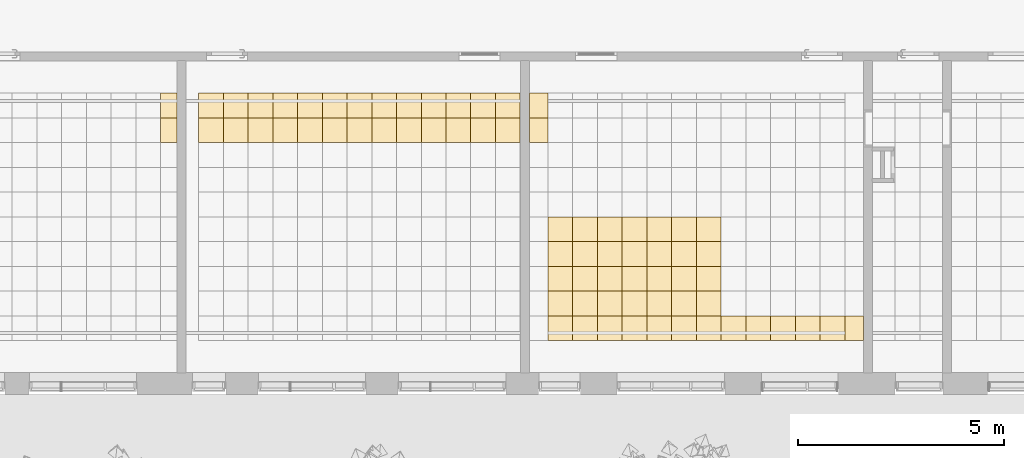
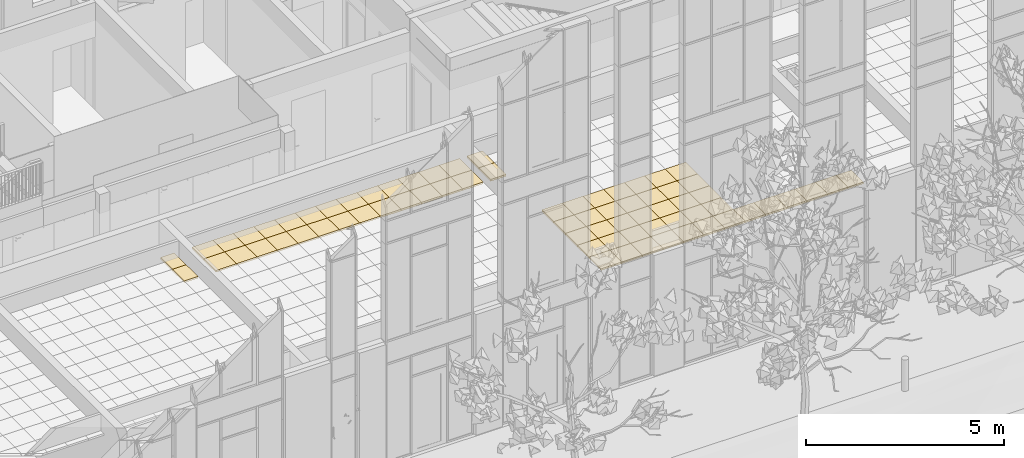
# One storey, part 194 of 246: 71 coverings.
"""IFC2X3 building model written with IfcOpenShell, lengths in millimetres."""

from ifc_helpers import new_model, entity, si_unit, converted_unit, derived_unit, money_unit, direction, frame, origin_with_axes, place, context, subcontext, project, spatial, faceted_brep, material, material_list, type_object, element, save


model = new_model("IFC2X3")

# Units and contexts
model_context = context("Model", 3, precision=0.01, world=origin_with_axes(), true_north=direction((0.0, 1.0)))
body_context = subcontext(model_context, "Body", "Model", "MODEL_VIEW")
ifc_project = project(units=[si_unit("LENGTHUNIT", "METRE", prefix="MILLI"), si_unit("AREAUNIT", "SQUARE_METRE"), si_unit("VOLUMEUNIT", "CUBIC_METRE"), converted_unit("PLANEANGLEUNIT", "DEGREE", entity("IfcPlaneAngleMeasure", 0.0174532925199), si_unit("PLANEANGLEUNIT", "RADIAN"), dimensions=[0, 0, 0, 0, 0, 0, 0]), si_unit("SOLIDANGLEUNIT", "STERADIAN"), money_unit("EUR"), converted_unit("TIMEUNIT", "Year", entity("IfcTimeMeasure", 31556926.0), si_unit("TIMEUNIT", "SECOND"), dimensions=[0, 0, 1, 0, 0, 0, 0]), si_unit("MASSUNIT", "GRAM", prefix="KILO"), si_unit("THERMODYNAMICTEMPERATUREUNIT", "DEGREE_CELSIUS"), si_unit("LUMINOUSINTENSITYUNIT", "LUMEN"), si_unit("ENERGYUNIT", "JOULE", prefix="MEGA"), derived_unit("THERMALCONDUCTANCEUNIT", [(si_unit("POWERUNIT", "WATT"), 1), (si_unit("LENGTHUNIT", "METRE"), -1), (si_unit("THERMODYNAMICTEMPERATUREUNIT", "KELVIN"), -1)]), derived_unit("SPECIFICHEATCAPACITYUNIT", [(si_unit("ENERGYUNIT", "JOULE"), 1), (si_unit("MASSUNIT", "GRAM", prefix="KILO"), -1), (si_unit("THERMODYNAMICTEMPERATUREUNIT", "KELVIN"), -1)]), derived_unit("MASSDENSITYUNIT", [(si_unit("MASSUNIT", "GRAM", prefix="KILO"), 1), (si_unit("VOLUMEUNIT", "CUBIC_METRE"), -1)])], contexts=[model_context])

# Site, building, storey
site_placement = place(None, origin_with_axes())
site = spatial("IfcSite", under=ifc_project, at=site_placement, Name="L.Koidula tn 11b", CompositionType="ELEMENT")
building_placement = place(site_placement, origin_with_axes())
building = spatial("IfcBuilding", under=site, at=building_placement, Name="Rakvere Riigigümnaasium", CompositionType="ELEMENT")
storey_placement = place(building_placement, origin_with_axes())
storey = spatial("IfcBuildingStorey", under=building, at=storey_placement, Name="1.korrus 0,00", CompositionType="ELEMENT", Elevation=0.0)

# Coverings
ifc_material_1 = material(Name="Karkass")
ifc_material_2 = material(Name="Kipsplaat")
ifc_material_list = material_list([ifc_material_1, ifc_material_2])
covering_type = type_object("IfcCoveringType", Name="SA-LV-Kips-moodul 55", PredefinedType="CEILING")
for number, where, z_axis, x_axis, name in (
    (1, (65929.7187104, 11090.4535941, 2750.0), (0.0, 0.0, 1.0), (1.0, 0.0, 0.0), "L-03"),
    (2, (65929.7187104, 11690.4535941, 2750.0), (0.0, 0.0, 1.0), (1.0, 0.0, 0.0), "L-03"),
):
    element("IfcCovering", number, at=place(storey_placement, frame(where, z_axis=z_axis, x_axis=x_axis)), inside=storey, type_object=covering_type, material=ifc_material_list, Name=name, PredefinedType="CEILING", context=body_context, shape_type="Brep", body=[
        faceted_brep([(399.999039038, 0.0, 12.5), (399.999039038, 0.0, 54.5), (0.0, 0.0, 54.5), (0.0, 0.0, 12.5), (399.999039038, 600.0, 12.5), (399.999039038, 600.0, 54.5), (0.0, 600.0, 54.5), (0.0, 600.0, 12.5)], [[[0, 1, 2, 3]], [[4, 5, 1, 0]], [[2, 1, 5, 6]], [[3, 2, 6, 7]], [[3, 7, 4, 0]], [[7, 6, 5, 4]]]),
        faceted_brep([(0.0, 0.0, 0.0), (399.999039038, 0.0, 0.0), (399.999039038, 0.0, 12.5), (0.0, 0.0, 12.5), (0.0, 600.0, 0.0), (399.999039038, 600.0, 0.0), (399.999039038, 600.0, 12.5), (0.0, 600.0, 12.5)], [[[0, 1, 2, 3]], [[0, 4, 5, 1]], [[1, 5, 6, 2]], [[3, 2, 6, 7]], [[4, 0, 3, 7]], [[5, 4, 7, 6]]]),
    ])
for number, where, z_axis, x_axis, name in (
    (3, (75319.7152091, 8690.45359412, 2750.0), (0.0, 0.0, 1.0), (1.0, 0.0, 0.0), "L-03"),
    (4, (75319.7152091, 8090.45359412, 2750.0), (0.0, 0.0, 1.0), (1.0, 0.0, 0.0), "L-03"),
    (5, (75319.7152091, 7490.45359412, 2750.0), (0.0, 0.0, 1.0), (1.0, 0.0, 0.0), "L-03"),
    (6, (75319.7152091, 6290.45359412, 2750.0), (0.0, 0.0, 1.0), (1.0, 0.0, 0.0), "L-03"),
    (7, (75319.7152091, 6890.45359412, 2750.0), (0.0, 0.0, 1.0), (1.0, 0.0, 0.0), "L-03"),
):
    element("IfcCovering", number, at=place(storey_placement, frame(where, z_axis=z_axis, x_axis=x_axis)), inside=storey, type_object=covering_type, material=ifc_material_list, Name=name, PredefinedType="CEILING", context=body_context, shape_type="Brep", body=[
        faceted_brep([(599.999948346, 0.0, 12.5), (599.999948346, 0.0, 54.5), (0.0, 0.0, 54.5), (0.0, 0.0, 12.5), (599.999948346, 600.0, 12.5), (599.999948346, 600.0, 54.5), (0.0, 600.0, 54.5), (0.0, 600.0, 12.5)], [[[0, 1, 2, 3]], [[4, 5, 1, 0]], [[2, 1, 5, 6]], [[3, 2, 6, 7]], [[3, 7, 4, 0]], [[7, 6, 5, 4]]]),
        faceted_brep([(0.0, 0.0, 0.0), (599.999948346, 0.0, 0.0), (599.999948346, 0.0, 12.5), (0.0, 0.0, 12.5), (0.0, 600.0, 0.0), (599.999948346, 600.0, 0.0), (599.999948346, 600.0, 12.5), (0.0, 600.0, 12.5)], [[[0, 1, 2, 3]], [[0, 4, 5, 1]], [[1, 5, 6, 2]], [[3, 2, 6, 7]], [[4, 0, 3, 7]], [[5, 4, 7, 6]]]),
    ])
for number, where, z_axis, x_axis, name in (
    (8, (74870.0163848, 11090.4535941, 2750.0), (0.0, 0.0, 1.0), (1.0, 0.0, 0.0), "L-03"),
    (9, (74870.0163848, 11690.4535941, 2750.0), (0.0, 0.0, 1.0), (1.0, 0.0, 0.0), "L-03"),
):
    element("IfcCovering", number, at=place(storey_placement, frame(where, z_axis=z_axis, x_axis=x_axis)), inside=storey, type_object=covering_type, material=ifc_material_list, Name=name, PredefinedType="CEILING", context=body_context, shape_type="Brep", body=[
        faceted_brep([(449.698824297, 0.0, 12.5), (449.698824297, 0.0, 54.5), (0.0, 0.0, 54.5), (0.0, 0.0, 12.5), (449.698824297, 600.0, 12.5), (449.698824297, 600.0, 54.5), (0.0, 600.0, 54.5), (0.0, 600.0, 12.5)], [[[0, 1, 2, 3]], [[4, 5, 1, 0]], [[2, 1, 5, 6]], [[3, 2, 6, 7]], [[3, 7, 4, 0]], [[7, 6, 5, 4]]]),
        faceted_brep([(0.0, 0.0, 0.0), (449.698824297, 0.0, 0.0), (449.698824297, 0.0, 12.5), (0.0, 0.0, 12.5), (0.0, 600.0, 0.0), (449.698824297, 600.0, 0.0), (449.698824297, 600.0, 12.5), (0.0, 600.0, 12.5)], [[[0, 1, 2, 3]], [[0, 4, 5, 1]], [[1, 5, 6, 2]], [[3, 2, 6, 7]], [[4, 0, 3, 7]], [[5, 4, 7, 6]]]),
    ])
for number, where, z_axis, x_axis, name in (
    (10, (76519.7151574, 8690.45359412, 2750.0), (0.0, 0.0, 1.0), (1.0, 0.0, 0.0), "L-03"),
    (11, (76519.7151574, 8090.45359412, 2750.0), (0.0, 0.0, 1.0), (1.0, 0.0, 0.0), "L-03"),
    (12, (76519.7151574, 7490.45359412, 2750.0), (0.0, 0.0, 1.0), (1.0, 0.0, 0.0), "L-03"),
    (13, (76519.7151574, 6290.45359412, 2750.0), (0.0, 0.0, 1.0), (1.0, 0.0, 0.0), "L-03"),
    (14, (76519.7151574, 6890.45359412, 2750.0), (0.0, 0.0, 1.0), (1.0, 0.0, 0.0), "L-03"),
):
    element("IfcCovering", number, at=place(storey_placement, frame(where, z_axis=z_axis, x_axis=x_axis)), inside=storey, type_object=covering_type, material=ifc_material_list, Name=name, PredefinedType="CEILING", context=body_context, shape_type="Brep", body=[
        faceted_brep([(599.999948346, 0.0, 12.5), (599.999948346, 0.0, 54.5), (0.0, 0.0, 54.5), (0.0, 0.0, 12.5), (599.999948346, 600.0, 12.5), (599.999948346, 600.0, 54.5), (0.0, 600.0, 54.5), (0.0, 600.0, 12.5)], [[[0, 1, 2, 3]], [[4, 5, 1, 0]], [[2, 1, 5, 6]], [[3, 2, 6, 7]], [[3, 7, 4, 0]], [[7, 6, 5, 4]]]),
        faceted_brep([(0.0, 0.0, 0.0), (599.999948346, 0.0, 0.0), (599.999948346, 0.0, 12.5), (0.0, 0.0, 12.5), (0.0, 600.0, 0.0), (599.999948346, 600.0, 0.0), (599.999948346, 600.0, 12.5), (0.0, 600.0, 12.5)], [[[0, 1, 2, 3]], [[0, 4, 5, 1]], [[1, 5, 6, 2]], [[3, 2, 6, 7]], [[4, 0, 3, 7]], [[5, 4, 7, 6]]]),
    ])
for number, where, z_axis, x_axis, name in (
    (15, (75919.7151574, 7490.45359412, 2750.0), (0.0, 0.0, 1.0), (1.0, 0.0, 0.0), "L-03"),
    (16, (75919.7151574, 8090.45359412, 2750.0), (0.0, 0.0, 1.0), (1.0, 0.0, 0.0), "L-03"),
    (17, (75919.7151574, 8690.45359412, 2750.0), (0.0, 0.0, 1.0), (1.0, 0.0, 0.0), "L-03"),
    (18, (75919.7151574, 6290.45359412, 2750.0), (0.0, 0.0, 1.0), (1.0, 0.0, 0.0), "L-03"),
    (19, (75919.7151574, 6890.45359412, 2750.0), (0.0, 0.0, 1.0), (1.0, 0.0, 0.0), "L-03"),
):
    element("IfcCovering", number, at=place(storey_placement, frame(where, z_axis=z_axis, x_axis=x_axis)), inside=storey, type_object=covering_type, material=ifc_material_list, Name=name, PredefinedType="CEILING", context=body_context, shape_type="Brep", body=[
        faceted_brep([(600.0, 0.0, 12.5), (600.0, 0.0, 54.5), (0.0, 0.0, 54.5), (0.0, 0.0, 12.5), (600.0, 600.0, 12.5), (600.0, 600.0, 54.5), (0.0, 600.0, 54.5), (0.0, 600.0, 12.5)], [[[0, 1, 2, 3]], [[4, 5, 1, 0]], [[2, 1, 5, 6]], [[3, 2, 6, 7]], [[3, 7, 4, 0]], [[7, 6, 5, 4]]]),
        faceted_brep([(0.0, 0.0, 0.0), (600.0, 0.0, 0.0), (600.0, 0.0, 12.5), (0.0, 0.0, 12.5), (0.0, 600.0, 0.0), (600.0, 600.0, 0.0), (600.0, 600.0, 12.5), (0.0, 600.0, 12.5)], [[[0, 1, 2, 3]], [[0, 4, 5, 1]], [[1, 5, 6, 2]], [[3, 2, 6, 7]], [[4, 0, 3, 7]], [[5, 4, 7, 6]]]),
    ])
for number, where, z_axis, x_axis, name in (
    (20, (77719.7151058, 8690.45359412, 2750.0), (0.0, 0.0, 1.0), (1.0, 0.0, 0.0), "L-03"),
    (21, (77719.7151058, 8090.45359412, 2750.0), (0.0, 0.0, 1.0), (1.0, 0.0, 0.0), "L-03"),
    (22, (77719.7151058, 7490.45359412, 2750.0), (0.0, 0.0, 1.0), (1.0, 0.0, 0.0), "L-03"),
    (23, (77719.7151058, 6290.45359412, 2750.0), (0.0, 0.0, 1.0), (1.0, 0.0, 0.0), "L-03"),
    (24, (77719.7151058, 6890.45359412, 2750.0), (0.0, 0.0, 1.0), (1.0, 0.0, 0.0), "L-03"),
):
    element("IfcCovering", number, at=place(storey_placement, frame(where, z_axis=z_axis, x_axis=x_axis)), inside=storey, type_object=covering_type, material=ifc_material_list, Name=name, PredefinedType="CEILING", context=body_context, shape_type="Brep", body=[
        faceted_brep([(599.999948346, 0.0, 12.5), (599.999948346, 0.0, 54.5), (0.0, 0.0, 54.5), (0.0, 0.0, 12.5), (599.999948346, 600.0, 12.5), (599.999948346, 600.0, 54.5), (0.0, 600.0, 54.5), (0.0, 600.0, 12.5)], [[[0, 1, 2, 3]], [[4, 5, 1, 0]], [[2, 1, 5, 6]], [[3, 2, 6, 7]], [[3, 7, 4, 0]], [[7, 6, 5, 4]]]),
        faceted_brep([(0.0, 0.0, 0.0), (599.999948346, 0.0, 0.0), (599.999948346, 0.0, 12.5), (0.0, 0.0, 12.5), (0.0, 600.0, 0.0), (599.999948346, 600.0, 0.0), (599.999948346, 600.0, 12.5), (0.0, 600.0, 12.5)], [[[0, 1, 2, 3]], [[0, 4, 5, 1]], [[1, 5, 6, 2]], [[3, 2, 6, 7]], [[4, 0, 3, 7]], [[5, 4, 7, 6]]]),
    ])
for number, where, z_axis, x_axis, name in (
    (25, (77119.7151058, 7490.45359412, 2750.0), (0.0, 0.0, 1.0), (1.0, 0.0, 0.0), "L-03"),
    (26, (77119.7151058, 8090.45359412, 2750.0), (0.0, 0.0, 1.0), (1.0, 0.0, 0.0), "L-03"),
    (27, (77119.7151058, 8690.45359412, 2750.0), (0.0, 0.0, 1.0), (1.0, 0.0, 0.0), "L-03"),
    (28, (77119.7151058, 6290.45359412, 2750.0), (0.0, 0.0, 1.0), (1.0, 0.0, 0.0), "L-03"),
    (29, (77119.7151058, 6890.45359412, 2750.0), (0.0, 0.0, 1.0), (1.0, 0.0, 0.0), "L-03"),
):
    element("IfcCovering", number, at=place(storey_placement, frame(where, z_axis=z_axis, x_axis=x_axis)), inside=storey, type_object=covering_type, material=ifc_material_list, Name=name, PredefinedType="CEILING", context=body_context, shape_type="Brep", body=[
        faceted_brep([(600.0, 0.0, 12.5), (600.0, 0.0, 54.5), (0.0, 0.0, 54.5), (0.0, 0.0, 12.5), (600.0, 600.0, 12.5), (600.0, 600.0, 54.5), (0.0, 600.0, 54.5), (0.0, 600.0, 12.5)], [[[0, 1, 2, 3]], [[4, 5, 1, 0]], [[2, 1, 5, 6]], [[3, 2, 6, 7]], [[3, 7, 4, 0]], [[7, 6, 5, 4]]]),
        faceted_brep([(0.0, 0.0, 0.0), (600.0, 0.0, 0.0), (600.0, 0.0, 12.5), (0.0, 0.0, 12.5), (0.0, 600.0, 0.0), (600.0, 600.0, 0.0), (600.0, 600.0, 12.5), (0.0, 600.0, 12.5)], [[[0, 1, 2, 3]], [[0, 4, 5, 1]], [[1, 5, 6, 2]], [[3, 2, 6, 7]], [[4, 0, 3, 7]], [[5, 4, 7, 6]]]),
    ])
for number, where, z_axis, x_axis, name in (
    (30, (78919.7150541, 8690.45359412, 2750.0), (0.0, 0.0, 1.0), (1.0, 0.0, 0.0), "L-03"),
    (31, (78919.7150541, 8090.45359412, 2750.0), (0.0, 0.0, 1.0), (1.0, 0.0, 0.0), "L-03"),
    (32, (78919.7150541, 7490.45359412, 2750.0), (0.0, 0.0, 1.0), (1.0, 0.0, 0.0), "L-03"),
    (33, (78919.7150541, 6290.45359412, 2750.0), (0.0, 0.0, 1.0), (1.0, 0.0, 0.0), "L-03"),
    (34, (78919.7150541, 6890.45359412, 2750.0), (0.0, 0.0, 1.0), (1.0, 0.0, 0.0), "L-03"),
):
    element("IfcCovering", number, at=place(storey_placement, frame(where, z_axis=z_axis, x_axis=x_axis)), inside=storey, type_object=covering_type, material=ifc_material_list, Name=name, PredefinedType="CEILING", context=body_context, shape_type="Brep", body=[
        faceted_brep([(599.999948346, 0.0, 12.5), (599.999948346, 0.0, 54.5), (0.0, 0.0, 54.5), (0.0, 0.0, 12.5), (599.999948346, 600.0, 12.5), (599.999948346, 600.0, 54.5), (0.0, 600.0, 54.5), (0.0, 600.0, 12.5)], [[[0, 1, 2, 3]], [[4, 5, 1, 0]], [[2, 1, 5, 6]], [[3, 2, 6, 7]], [[3, 7, 4, 0]], [[7, 6, 5, 4]]]),
        faceted_brep([(0.0, 0.0, 0.0), (599.999948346, 0.0, 0.0), (599.999948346, 0.0, 12.5), (0.0, 0.0, 12.5), (0.0, 600.0, 0.0), (599.999948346, 600.0, 0.0), (599.999948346, 600.0, 12.5), (0.0, 600.0, 12.5)], [[[0, 1, 2, 3]], [[0, 4, 5, 1]], [[1, 5, 6, 2]], [[3, 2, 6, 7]], [[4, 0, 3, 7]], [[5, 4, 7, 6]]]),
    ])
for number, where, z_axis, x_axis, name in (
    (35, (78319.7150541, 7490.45359412, 2750.0), (0.0, 0.0, 1.0), (1.0, 0.0, 0.0), "L-03"),
    (36, (78319.7150541, 8090.45359412, 2750.0), (0.0, 0.0, 1.0), (1.0, 0.0, 0.0), "L-03"),
    (37, (78319.7150541, 8690.45359412, 2750.0), (0.0, 0.0, 1.0), (1.0, 0.0, 0.0), "L-03"),
    (38, (78319.7150541, 6290.45359412, 2750.0), (0.0, 0.0, 1.0), (1.0, 0.0, 0.0), "L-03"),
    (39, (78319.7150541, 6890.45359412, 2750.0), (0.0, 0.0, 1.0), (1.0, 0.0, 0.0), "L-03"),
):
    element("IfcCovering", number, at=place(storey_placement, frame(where, z_axis=z_axis, x_axis=x_axis)), inside=storey, type_object=covering_type, material=ifc_material_list, Name=name, PredefinedType="CEILING", context=body_context, shape_type="Brep", body=[
        faceted_brep([(600.0, 0.0, 12.5), (600.0, 0.0, 54.5), (0.0, 0.0, 54.5), (0.0, 0.0, 12.5), (600.0, 600.0, 12.5), (600.0, 600.0, 54.5), (0.0, 600.0, 54.5), (0.0, 600.0, 12.5)], [[[0, 1, 2, 3]], [[4, 5, 1, 0]], [[2, 1, 5, 6]], [[3, 2, 6, 7]], [[3, 7, 4, 0]], [[7, 6, 5, 4]]]),
        faceted_brep([(0.0, 0.0, 0.0), (600.0, 0.0, 0.0), (600.0, 0.0, 12.5), (0.0, 0.0, 12.5), (0.0, 600.0, 0.0), (600.0, 600.0, 0.0), (600.0, 600.0, 12.5), (0.0, 600.0, 12.5)], [[[0, 1, 2, 3]], [[0, 4, 5, 1]], [[1, 5, 6, 2]], [[3, 2, 6, 7]], [[4, 0, 3, 7]], [[5, 4, 7, 6]]]),
    ])
covering_1_placement = place(storey_placement, frame((80119.7150025, 6290.45359412, 2750.0), z_axis=(0.0, 0.0, 1.0), x_axis=(1.0, 0.0, 0.0)))
element("IfcCovering", 40, at=covering_1_placement, inside=storey, type_object=covering_type, material=ifc_material_list, Name="L-03", PredefinedType="CEILING", context=body_context, shape_type="Brep", body=[
    faceted_brep([(599.999948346, 0.0, 12.5), (599.999948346, 0.0, 54.5), (0.0, 0.0, 54.5), (0.0, 0.0, 12.5), (599.999948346, 600.0, 12.5), (599.999948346, 600.0, 54.5), (0.0, 600.0, 54.5), (0.0, 600.0, 12.5)], [[[0, 1, 2, 3]], [[4, 5, 1, 0]], [[2, 1, 5, 6]], [[3, 2, 6, 7]], [[3, 7, 4, 0]], [[7, 6, 5, 4]]]),
    faceted_brep([(0.0, 0.0, 0.0), (599.999948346, 0.0, 0.0), (599.999948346, 0.0, 12.5), (0.0, 0.0, 12.5), (0.0, 600.0, 0.0), (599.999948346, 600.0, 0.0), (599.999948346, 600.0, 12.5), (0.0, 600.0, 12.5)], [[[0, 1, 2, 3]], [[0, 4, 5, 1]], [[1, 5, 6, 2]], [[3, 2, 6, 7]], [[4, 0, 3, 7]], [[5, 4, 7, 6]]]),
])
covering_2_placement = place(storey_placement, frame((79519.7150025, 6290.45359412, 2750.0), z_axis=(0.0, 0.0, 1.0), x_axis=(1.0, 0.0, 0.0)))
element("IfcCovering", 41, at=covering_2_placement, inside=storey, type_object=covering_type, material=ifc_material_list, Name="L-03", PredefinedType="CEILING", context=body_context, shape_type="Brep", body=[
    faceted_brep([(600.0, 0.0, 12.5), (600.0, 0.0, 54.5), (0.0, 0.0, 54.5), (0.0, 0.0, 12.5), (600.0, 600.0, 12.5), (600.0, 600.0, 54.5), (0.0, 600.0, 54.5), (0.0, 600.0, 12.5)], [[[0, 1, 2, 3]], [[4, 5, 1, 0]], [[2, 1, 5, 6]], [[3, 2, 6, 7]], [[3, 7, 4, 0]], [[7, 6, 5, 4]]]),
    faceted_brep([(0.0, 0.0, 0.0), (600.0, 0.0, 0.0), (600.0, 0.0, 12.5), (0.0, 0.0, 12.5), (0.0, 600.0, 0.0), (600.0, 600.0, 0.0), (600.0, 600.0, 12.5), (0.0, 600.0, 12.5)], [[[0, 1, 2, 3]], [[0, 4, 5, 1]], [[1, 5, 6, 2]], [[3, 2, 6, 7]], [[4, 0, 3, 7]], [[5, 4, 7, 6]]]),
])
covering_3_placement = place(storey_placement, frame((81319.7149508, 6290.45359412, 2750.0), z_axis=(0.0, 0.0, 1.0), x_axis=(1.0, 0.0, 0.0)))
element("IfcCovering", 42, at=covering_3_placement, inside=storey, type_object=covering_type, material=ifc_material_list, Name="L-03", PredefinedType="CEILING", context=body_context, shape_type="Brep", body=[
    faceted_brep([(599.999948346, 0.0, 12.5), (599.999948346, 0.0, 54.5), (0.0, 0.0, 54.5), (0.0, 0.0, 12.5), (599.999948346, 600.0, 12.5), (599.999948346, 600.0, 54.5), (0.0, 600.0, 54.5), (0.0, 600.0, 12.5)], [[[0, 1, 2, 3]], [[4, 5, 1, 0]], [[2, 1, 5, 6]], [[3, 2, 6, 7]], [[3, 7, 4, 0]], [[7, 6, 5, 4]]]),
    faceted_brep([(0.0, 0.0, 0.0), (599.999948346, 0.0, 0.0), (599.999948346, 0.0, 12.5), (0.0, 0.0, 12.5), (0.0, 600.0, 0.0), (599.999948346, 600.0, 0.0), (599.999948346, 600.0, 12.5), (0.0, 600.0, 12.5)], [[[0, 1, 2, 3]], [[0, 4, 5, 1]], [[1, 5, 6, 2]], [[3, 2, 6, 7]], [[4, 0, 3, 7]], [[5, 4, 7, 6]]]),
])
covering_4_placement = place(storey_placement, frame((80719.7149508, 6290.45359412, 2750.0), z_axis=(0.0, 0.0, 1.0), x_axis=(1.0, 0.0, 0.0)))
element("IfcCovering", 43, at=covering_4_placement, inside=storey, type_object=covering_type, material=ifc_material_list, Name="L-03", PredefinedType="CEILING", context=body_context, shape_type="Brep", body=[
    faceted_brep([(600.0, 0.0, 12.5), (600.0, 0.0, 54.5), (0.0, 0.0, 54.5), (0.0, 0.0, 12.5), (600.0, 600.0, 12.5), (600.0, 600.0, 54.5), (0.0, 600.0, 54.5), (0.0, 600.0, 12.5)], [[[0, 1, 2, 3]], [[4, 5, 1, 0]], [[2, 1, 5, 6]], [[3, 2, 6, 7]], [[3, 7, 4, 0]], [[7, 6, 5, 4]]]),
    faceted_brep([(0.0, 0.0, 0.0), (600.0, 0.0, 0.0), (600.0, 0.0, 12.5), (0.0, 0.0, 12.5), (0.0, 600.0, 0.0), (600.0, 600.0, 0.0), (600.0, 600.0, 12.5), (0.0, 600.0, 12.5)], [[[0, 1, 2, 3]], [[0, 4, 5, 1]], [[1, 5, 6, 2]], [[3, 2, 6, 7]], [[4, 0, 3, 7]], [[5, 4, 7, 6]]]),
])
covering_5_placement = place(storey_placement, frame((82519.7148992, 6290.45359412, 2750.0), z_axis=(0.0, 0.0, 1.0), x_axis=(1.0, 0.0, 0.0)))
element("IfcCovering", 44, at=covering_5_placement, inside=storey, type_object=covering_type, material=ifc_material_list, Name="L-03", PredefinedType="CEILING", context=body_context, shape_type="Brep", body=[
    faceted_brep([(450.341138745, 0.0, 12.5), (450.341138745, 0.0, 54.5), (0.0, 0.0, 54.5), (0.0, 0.0, 12.5), (450.341138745, 600.0, 12.5), (450.341138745, 600.0, 54.5), (0.0, 600.0, 54.5), (0.0, 600.0, 12.5)], [[[0, 1, 2, 3]], [[4, 5, 1, 0]], [[2, 1, 5, 6]], [[3, 2, 6, 7]], [[3, 7, 4, 0]], [[7, 6, 5, 4]]]),
    faceted_brep([(0.0, 0.0, 0.0), (450.341138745, 0.0, 0.0), (450.341138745, 0.0, 12.5), (0.0, 0.0, 12.5), (0.0, 600.0, 0.0), (450.341138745, 600.0, 0.0), (450.341138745, 600.0, 12.5), (0.0, 600.0, 12.5)], [[[0, 1, 2, 3]], [[0, 4, 5, 1]], [[1, 5, 6, 2]], [[3, 2, 6, 7]], [[4, 0, 3, 7]], [[5, 4, 7, 6]]]),
])
covering_6_placement = place(storey_placement, frame((81919.7148992, 6290.45359412, 2750.0), z_axis=(0.0, 0.0, 1.0), x_axis=(1.0, 0.0, 0.0)))
element("IfcCovering", 45, at=covering_6_placement, inside=storey, type_object=covering_type, material=ifc_material_list, Name="L-03", PredefinedType="CEILING", context=body_context, shape_type="Brep", body=[
    faceted_brep([(600.0, 0.0, 12.5), (600.0, 0.0, 54.5), (0.0, 0.0, 54.5), (0.0, 0.0, 12.5), (600.0, 600.0, 12.5), (600.0, 600.0, 54.5), (0.0, 600.0, 54.5), (0.0, 600.0, 12.5)], [[[0, 1, 2, 3]], [[4, 5, 1, 0]], [[2, 1, 5, 6]], [[3, 2, 6, 7]], [[3, 7, 4, 0]], [[7, 6, 5, 4]]]),
    faceted_brep([(0.0, 0.0, 0.0), (600.0, 0.0, 0.0), (600.0, 0.0, 12.5), (0.0, 0.0, 12.5), (0.0, 600.0, 0.0), (600.0, 600.0, 0.0), (600.0, 600.0, 12.5), (0.0, 600.0, 12.5)], [[[0, 1, 2, 3]], [[0, 4, 5, 1]], [[1, 5, 6, 2]], [[3, 2, 6, 7]], [[4, 0, 3, 7]], [[5, 4, 7, 6]]]),
])
for number, where, z_axis, x_axis, name in (
    (46, (67449.7153767, 11090.4535941, 2750.0), (0.0, 0.0, 1.0), (1.0, 0.0, 0.0), "L-03"),
    (47, (67449.7153767, 11690.4535941, 2750.0), (0.0, 0.0, 1.0), (1.0, 0.0, 0.0), "L-03"),
):
    element("IfcCovering", number, at=place(storey_placement, frame(where, z_axis=z_axis, x_axis=x_axis)), inside=storey, type_object=covering_type, material=ifc_material_list, Name=name, PredefinedType="CEILING", context=body_context, shape_type="Brep", body=[
        faceted_brep([(599.999948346, 0.0, 12.5), (599.999948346, 0.0, 54.5), (0.0, 0.0, 54.5), (0.0, 0.0, 12.5), (599.999948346, 600.0, 12.5), (599.999948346, 600.0, 54.5), (0.0, 600.0, 54.5), (0.0, 600.0, 12.5)], [[[0, 1, 2, 3]], [[4, 5, 1, 0]], [[2, 1, 5, 6]], [[3, 2, 6, 7]], [[3, 7, 4, 0]], [[7, 6, 5, 4]]]),
        faceted_brep([(0.0, 0.0, 0.0), (599.999948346, 0.0, 0.0), (599.999948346, 0.0, 12.5), (0.0, 0.0, 12.5), (0.0, 600.0, 0.0), (599.999948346, 600.0, 0.0), (599.999948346, 600.0, 12.5), (0.0, 600.0, 12.5)], [[[0, 1, 2, 3]], [[0, 4, 5, 1]], [[1, 5, 6, 2]], [[3, 2, 6, 7]], [[4, 0, 3, 7]], [[5, 4, 7, 6]]]),
    ])
for number, where, z_axis, x_axis, name in (
    (48, (66849.7149246, 11090.4535941, 2750.0), (0.0, 0.0, 1.0), (1.0, 0.0, 0.0), "L-03"),
    (49, (66849.7149246, 11690.4535941, 2750.0), (0.0, 0.0, 1.0), (1.0, 0.0, 0.0), "L-03"),
):
    element("IfcCovering", number, at=place(storey_placement, frame(where, z_axis=z_axis, x_axis=x_axis)), inside=storey, type_object=covering_type, material=ifc_material_list, Name=name, PredefinedType="CEILING", context=body_context, shape_type="Brep", body=[
        faceted_brep([(600.000452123, 0.0, 12.5), (600.000452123, 0.0, 54.5), (0.0, 0.0, 54.5), (0.0, 0.0, 12.5), (600.000452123, 600.0, 12.5), (600.000452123, 600.0, 54.5), (0.0, 600.0, 54.5), (0.0, 600.0, 12.5)], [[[0, 1, 2, 3]], [[4, 5, 1, 0]], [[2, 1, 5, 6]], [[3, 2, 6, 7]], [[3, 7, 4, 0]], [[7, 6, 5, 4]]]),
        faceted_brep([(0.0, 0.0, 0.0), (600.000452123, 0.0, 0.0), (600.000452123, 0.0, 12.5), (0.0, 0.0, 12.5), (0.0, 600.0, 0.0), (600.000452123, 600.0, 0.0), (600.000452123, 600.0, 12.5), (0.0, 600.0, 12.5)], [[[0, 1, 2, 3]], [[0, 4, 5, 1]], [[1, 5, 6, 2]], [[3, 2, 6, 7]], [[4, 0, 3, 7]], [[5, 4, 7, 6]]]),
    ])
for number, where, z_axis, x_axis, name in (
    (50, (68649.715325, 11090.4535941, 2750.0), (0.0, 0.0, 1.0), (1.0, 0.0, 0.0), "L-03"),
    (51, (68649.715325, 11690.4535941, 2750.0), (0.0, 0.0, 1.0), (1.0, 0.0, 0.0), "L-03"),
):
    element("IfcCovering", number, at=place(storey_placement, frame(where, z_axis=z_axis, x_axis=x_axis)), inside=storey, type_object=covering_type, material=ifc_material_list, Name=name, PredefinedType="CEILING", context=body_context, shape_type="Brep", body=[
        faceted_brep([(599.999948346, 0.0, 12.5), (599.999948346, 0.0, 54.5), (0.0, 0.0, 54.5), (0.0, 0.0, 12.5), (599.999948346, 600.0, 12.5), (599.999948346, 600.0, 54.5), (0.0, 600.0, 54.5), (0.0, 600.0, 12.5)], [[[0, 1, 2, 3]], [[4, 5, 1, 0]], [[2, 1, 5, 6]], [[3, 2, 6, 7]], [[3, 7, 4, 0]], [[7, 6, 5, 4]]]),
        faceted_brep([(0.0, 0.0, 0.0), (599.999948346, 0.0, 0.0), (599.999948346, 0.0, 12.5), (0.0, 0.0, 12.5), (0.0, 600.0, 0.0), (599.999948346, 600.0, 0.0), (599.999948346, 600.0, 12.5), (0.0, 600.0, 12.5)], [[[0, 1, 2, 3]], [[0, 4, 5, 1]], [[1, 5, 6, 2]], [[3, 2, 6, 7]], [[4, 0, 3, 7]], [[5, 4, 7, 6]]]),
    ])
for number, where, z_axis, x_axis, name in (
    (52, (68049.715325, 11090.4535941, 2750.0), (0.0, 0.0, 1.0), (1.0, 0.0, 0.0), "L-03"),
    (53, (68049.715325, 11690.4535941, 2750.0), (0.0, 0.0, 1.0), (1.0, 0.0, 0.0), "L-03"),
):
    element("IfcCovering", number, at=place(storey_placement, frame(where, z_axis=z_axis, x_axis=x_axis)), inside=storey, type_object=covering_type, material=ifc_material_list, Name=name, PredefinedType="CEILING", context=body_context, shape_type="Brep", body=[
        faceted_brep([(600.0, 0.0, 12.5), (600.0, 0.0, 54.5), (0.0, 0.0, 54.5), (0.0, 0.0, 12.5), (600.0, 600.0, 12.5), (600.0, 600.0, 54.5), (0.0, 600.0, 54.5), (0.0, 600.0, 12.5)], [[[0, 1, 2, 3]], [[4, 5, 1, 0]], [[2, 1, 5, 6]], [[3, 2, 6, 7]], [[3, 7, 4, 0]], [[7, 6, 5, 4]]]),
        faceted_brep([(0.0, 0.0, 0.0), (600.0, 0.0, 0.0), (600.0, 0.0, 12.5), (0.0, 0.0, 12.5), (0.0, 600.0, 0.0), (600.0, 600.0, 0.0), (600.0, 600.0, 12.5), (0.0, 600.0, 12.5)], [[[0, 1, 2, 3]], [[0, 4, 5, 1]], [[1, 5, 6, 2]], [[3, 2, 6, 7]], [[4, 0, 3, 7]], [[5, 4, 7, 6]]]),
    ])
for number, where, z_axis, x_axis, name in (
    (54, (69849.7152734, 11090.4535941, 2750.0), (0.0, 0.0, 1.0), (1.0, 0.0, 0.0), "L-03"),
    (55, (69849.7152734, 11690.4535941, 2750.0), (0.0, 0.0, 1.0), (1.0, 0.0, 0.0), "L-03"),
):
    element("IfcCovering", number, at=place(storey_placement, frame(where, z_axis=z_axis, x_axis=x_axis)), inside=storey, type_object=covering_type, material=ifc_material_list, Name=name, PredefinedType="CEILING", context=body_context, shape_type="Brep", body=[
        faceted_brep([(599.999948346, 0.0, 12.5), (599.999948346, 0.0, 54.5), (0.0, 0.0, 54.5), (0.0, 0.0, 12.5), (599.999948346, 600.0, 12.5), (599.999948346, 600.0, 54.5), (0.0, 600.0, 54.5), (0.0, 600.0, 12.5)], [[[0, 1, 2, 3]], [[4, 5, 1, 0]], [[2, 1, 5, 6]], [[3, 2, 6, 7]], [[3, 7, 4, 0]], [[7, 6, 5, 4]]]),
        faceted_brep([(0.0, 0.0, 0.0), (599.999948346, 0.0, 0.0), (599.999948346, 0.0, 12.5), (0.0, 0.0, 12.5), (0.0, 600.0, 0.0), (599.999948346, 600.0, 0.0), (599.999948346, 600.0, 12.5), (0.0, 600.0, 12.5)], [[[0, 1, 2, 3]], [[0, 4, 5, 1]], [[1, 5, 6, 2]], [[3, 2, 6, 7]], [[4, 0, 3, 7]], [[5, 4, 7, 6]]]),
    ])
for number, where, z_axis, x_axis, name in (
    (56, (69249.7152734, 11090.4535941, 2750.0), (0.0, 0.0, 1.0), (1.0, 0.0, 0.0), "L-03"),
    (57, (69249.7152734, 11690.4535941, 2750.0), (0.0, 0.0, 1.0), (1.0, 0.0, 0.0), "L-03"),
):
    element("IfcCovering", number, at=place(storey_placement, frame(where, z_axis=z_axis, x_axis=x_axis)), inside=storey, type_object=covering_type, material=ifc_material_list, Name=name, PredefinedType="CEILING", context=body_context, shape_type="Brep", body=[
        faceted_brep([(600.0, 0.0, 12.5), (600.0, 0.0, 54.5), (0.0, 0.0, 54.5), (0.0, 0.0, 12.5), (600.0, 600.0, 12.5), (600.0, 600.0, 54.5), (0.0, 600.0, 54.5), (0.0, 600.0, 12.5)], [[[0, 1, 2, 3]], [[4, 5, 1, 0]], [[2, 1, 5, 6]], [[3, 2, 6, 7]], [[3, 7, 4, 0]], [[7, 6, 5, 4]]]),
        faceted_brep([(0.0, 0.0, 0.0), (600.0, 0.0, 0.0), (600.0, 0.0, 12.5), (0.0, 0.0, 12.5), (0.0, 600.0, 0.0), (600.0, 600.0, 0.0), (600.0, 600.0, 12.5), (0.0, 600.0, 12.5)], [[[0, 1, 2, 3]], [[0, 4, 5, 1]], [[1, 5, 6, 2]], [[3, 2, 6, 7]], [[4, 0, 3, 7]], [[5, 4, 7, 6]]]),
    ])
for number, where, z_axis, x_axis, name in (
    (58, (71049.7152217, 11090.4535941, 2750.0), (0.0, 0.0, 1.0), (1.0, 0.0, 0.0), "L-03"),
    (59, (71049.7152217, 11690.4535941, 2750.0), (0.0, 0.0, 1.0), (1.0, 0.0, 0.0), "L-03"),
):
    element("IfcCovering", number, at=place(storey_placement, frame(where, z_axis=z_axis, x_axis=x_axis)), inside=storey, type_object=covering_type, material=ifc_material_list, Name=name, PredefinedType="CEILING", context=body_context, shape_type="Brep", body=[
        faceted_brep([(599.999948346, 0.0, 12.5), (599.999948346, 0.0, 54.5), (0.0, 0.0, 54.5), (0.0, 0.0, 12.5), (599.999948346, 600.0, 12.5), (599.999948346, 600.0, 54.5), (0.0, 600.0, 54.5), (0.0, 600.0, 12.5)], [[[0, 1, 2, 3]], [[4, 5, 1, 0]], [[2, 1, 5, 6]], [[3, 2, 6, 7]], [[3, 7, 4, 0]], [[7, 6, 5, 4]]]),
        faceted_brep([(0.0, 0.0, 0.0), (599.999948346, 0.0, 0.0), (599.999948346, 0.0, 12.5), (0.0, 0.0, 12.5), (0.0, 600.0, 0.0), (599.999948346, 600.0, 0.0), (599.999948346, 600.0, 12.5), (0.0, 600.0, 12.5)], [[[0, 1, 2, 3]], [[0, 4, 5, 1]], [[1, 5, 6, 2]], [[3, 2, 6, 7]], [[4, 0, 3, 7]], [[5, 4, 7, 6]]]),
    ])
for number, where, z_axis, x_axis, name in (
    (60, (70449.7152217, 11090.4535941, 2750.0), (0.0, 0.0, 1.0), (1.0, 0.0, 0.0), "L-03"),
    (61, (70449.7152217, 11690.4535941, 2750.0), (0.0, 0.0, 1.0), (1.0, 0.0, 0.0), "L-03"),
):
    element("IfcCovering", number, at=place(storey_placement, frame(where, z_axis=z_axis, x_axis=x_axis)), inside=storey, type_object=covering_type, material=ifc_material_list, Name=name, PredefinedType="CEILING", context=body_context, shape_type="Brep", body=[
        faceted_brep([(600.0, 0.0, 12.5), (600.0, 0.0, 54.5), (0.0, 0.0, 54.5), (0.0, 0.0, 12.5), (600.0, 600.0, 12.5), (600.0, 600.0, 54.5), (0.0, 600.0, 54.5), (0.0, 600.0, 12.5)], [[[0, 1, 2, 3]], [[4, 5, 1, 0]], [[2, 1, 5, 6]], [[3, 2, 6, 7]], [[3, 7, 4, 0]], [[7, 6, 5, 4]]]),
        faceted_brep([(0.0, 0.0, 0.0), (600.0, 0.0, 0.0), (600.0, 0.0, 12.5), (0.0, 0.0, 12.5), (0.0, 600.0, 0.0), (600.0, 600.0, 0.0), (600.0, 600.0, 12.5), (0.0, 600.0, 12.5)], [[[0, 1, 2, 3]], [[0, 4, 5, 1]], [[1, 5, 6, 2]], [[3, 2, 6, 7]], [[4, 0, 3, 7]], [[5, 4, 7, 6]]]),
    ])
for number, where, z_axis, x_axis, name in (
    (62, (72249.7151701, 11090.4535941, 2750.0), (0.0, 0.0, 1.0), (1.0, 0.0, 0.0), "L-03"),
    (63, (72249.7151701, 11690.4535941, 2750.0), (0.0, 0.0, 1.0), (1.0, 0.0, 0.0), "L-03"),
):
    element("IfcCovering", number, at=place(storey_placement, frame(where, z_axis=z_axis, x_axis=x_axis)), inside=storey, type_object=covering_type, material=ifc_material_list, Name=name, PredefinedType="CEILING", context=body_context, shape_type="Brep", body=[
        faceted_brep([(599.999948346, 0.0, 12.5), (599.999948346, 0.0, 54.5), (0.0, 0.0, 54.5), (0.0, 0.0, 12.5), (599.999948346, 600.0, 12.5), (599.999948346, 600.0, 54.5), (0.0, 600.0, 54.5), (0.0, 600.0, 12.5)], [[[0, 1, 2, 3]], [[4, 5, 1, 0]], [[2, 1, 5, 6]], [[3, 2, 6, 7]], [[3, 7, 4, 0]], [[7, 6, 5, 4]]]),
        faceted_brep([(0.0, 0.0, 0.0), (599.999948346, 0.0, 0.0), (599.999948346, 0.0, 12.5), (0.0, 0.0, 12.5), (0.0, 600.0, 0.0), (599.999948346, 600.0, 0.0), (599.999948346, 600.0, 12.5), (0.0, 600.0, 12.5)], [[[0, 1, 2, 3]], [[0, 4, 5, 1]], [[1, 5, 6, 2]], [[3, 2, 6, 7]], [[4, 0, 3, 7]], [[5, 4, 7, 6]]]),
    ])
for number, where, z_axis, x_axis, name in (
    (64, (71649.7151701, 11090.4535941, 2750.0), (0.0, 0.0, 1.0), (1.0, 0.0, 0.0), "L-03"),
    (65, (71649.7151701, 11690.4535941, 2750.0), (0.0, 0.0, 1.0), (1.0, 0.0, 0.0), "L-03"),
):
    element("IfcCovering", number, at=place(storey_placement, frame(where, z_axis=z_axis, x_axis=x_axis)), inside=storey, type_object=covering_type, material=ifc_material_list, Name=name, PredefinedType="CEILING", context=body_context, shape_type="Brep", body=[
        faceted_brep([(600.0, 0.0, 12.5), (600.0, 0.0, 54.5), (0.0, 0.0, 54.5), (0.0, 0.0, 12.5), (600.0, 600.0, 12.5), (600.0, 600.0, 54.5), (0.0, 600.0, 54.5), (0.0, 600.0, 12.5)], [[[0, 1, 2, 3]], [[4, 5, 1, 0]], [[2, 1, 5, 6]], [[3, 2, 6, 7]], [[3, 7, 4, 0]], [[7, 6, 5, 4]]]),
        faceted_brep([(0.0, 0.0, 0.0), (600.0, 0.0, 0.0), (600.0, 0.0, 12.5), (0.0, 0.0, 12.5), (0.0, 600.0, 0.0), (600.0, 600.0, 0.0), (600.0, 600.0, 12.5), (0.0, 600.0, 12.5)], [[[0, 1, 2, 3]], [[0, 4, 5, 1]], [[1, 5, 6, 2]], [[3, 2, 6, 7]], [[4, 0, 3, 7]], [[5, 4, 7, 6]]]),
    ])
for number, where, z_axis, x_axis, name in (
    (66, (73449.7151184, 11090.4535941, 2750.0), (0.0, 0.0, 1.0), (1.0, 0.0, 0.0), "L-03"),
    (67, (73449.7151184, 11690.4535941, 2750.0), (0.0, 0.0, 1.0), (1.0, 0.0, 0.0), "L-03"),
):
    element("IfcCovering", number, at=place(storey_placement, frame(where, z_axis=z_axis, x_axis=x_axis)), inside=storey, type_object=covering_type, material=ifc_material_list, Name=name, PredefinedType="CEILING", context=body_context, shape_type="Brep", body=[
        faceted_brep([(599.999948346, 0.0, 12.5), (599.999948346, 0.0, 54.5), (0.0, 0.0, 54.5), (0.0, 0.0, 12.5), (599.999948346, 600.0, 12.5), (599.999948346, 600.0, 54.5), (0.0, 600.0, 54.5), (0.0, 600.0, 12.5)], [[[0, 1, 2, 3]], [[4, 5, 1, 0]], [[2, 1, 5, 6]], [[3, 2, 6, 7]], [[3, 7, 4, 0]], [[7, 6, 5, 4]]]),
        faceted_brep([(0.0, 0.0, 0.0), (599.999948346, 0.0, 0.0), (599.999948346, 0.0, 12.5), (0.0, 0.0, 12.5), (0.0, 600.0, 0.0), (599.999948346, 600.0, 0.0), (599.999948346, 600.0, 12.5), (0.0, 600.0, 12.5)], [[[0, 1, 2, 3]], [[0, 4, 5, 1]], [[1, 5, 6, 2]], [[3, 2, 6, 7]], [[4, 0, 3, 7]], [[5, 4, 7, 6]]]),
    ])
for number, where, z_axis, x_axis, name in (
    (68, (72849.7151184, 11090.4535941, 2750.0), (0.0, 0.0, 1.0), (1.0, 0.0, 0.0), "L-03"),
    (69, (72849.7151184, 11690.4535941, 2750.0), (0.0, 0.0, 1.0), (1.0, 0.0, 0.0), "L-03"),
    (70, (74049.7150668, 11090.4535941, 2750.0), (0.0, 0.0, 1.0), (1.0, 0.0, 0.0), "L-03"),
    (71, (74049.7150668, 11690.4535941, 2750.0), (0.0, 0.0, 1.0), (1.0, 0.0, 0.0), "L-03"),
):
    element("IfcCovering", number, at=place(storey_placement, frame(where, z_axis=z_axis, x_axis=x_axis)), inside=storey, type_object=covering_type, material=ifc_material_list, Name=name, PredefinedType="CEILING", context=body_context, shape_type="Brep", body=[
        faceted_brep([(600.0, 0.0, 12.5), (600.0, 0.0, 54.5), (0.0, 0.0, 54.5), (0.0, 0.0, 12.5), (600.0, 600.0, 12.5), (600.0, 600.0, 54.5), (0.0, 600.0, 54.5), (0.0, 600.0, 12.5)], [[[0, 1, 2, 3]], [[4, 5, 1, 0]], [[2, 1, 5, 6]], [[3, 2, 6, 7]], [[3, 7, 4, 0]], [[7, 6, 5, 4]]]),
        faceted_brep([(0.0, 0.0, 0.0), (600.0, 0.0, 0.0), (600.0, 0.0, 12.5), (0.0, 0.0, 12.5), (0.0, 600.0, 0.0), (600.0, 600.0, 0.0), (600.0, 600.0, 12.5), (0.0, 600.0, 12.5)], [[[0, 1, 2, 3]], [[0, 4, 5, 1]], [[1, 5, 6, 2]], [[3, 2, 6, 7]], [[4, 0, 3, 7]], [[5, 4, 7, 6]]]),
    ])

save(model, "model.ifc")
